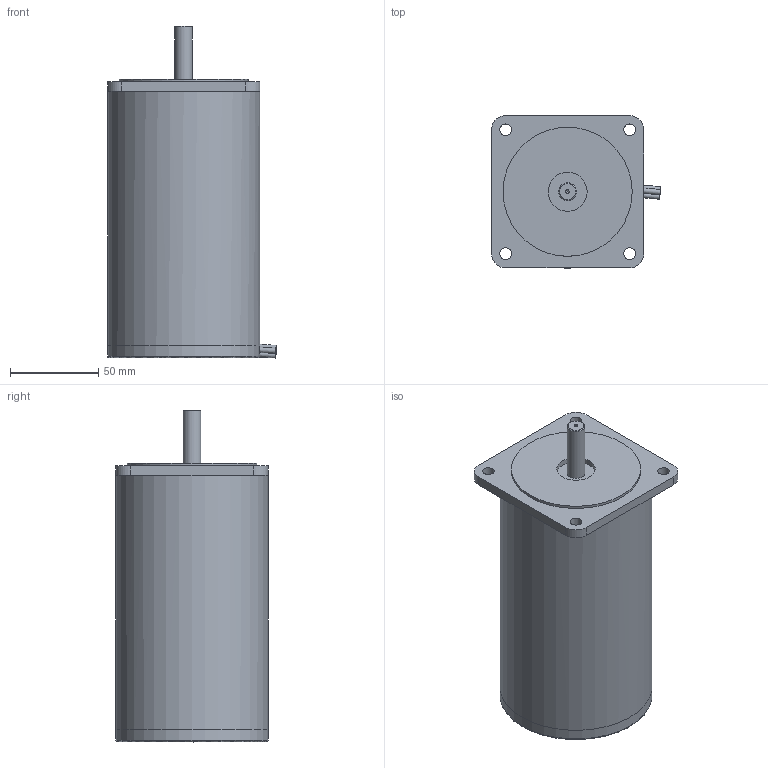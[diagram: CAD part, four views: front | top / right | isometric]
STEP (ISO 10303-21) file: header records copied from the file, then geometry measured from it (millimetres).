
FILE_DESCRIPTION((''),'2;1');
FILE_NAME('C:\Users\Reinhard\Documents\Inventor\Testschrittmotor\SM87\SM87.4L.stp','2012-11-14T20:37:56',('Reinhard'),(''),'Autodesk Inventor 2012','Autodesk Inventor 2012','');
FILE_SCHEMA(('CONFIG_CONTROL_DESIGN'));
Length unit declared in the file: millimetre
Products named in the file (1): SM87
Bounding box: 95.44 x 86 x 187.62 mm (x, y, z)
Volume: 145574.5 mm3; surface area: 107966.4 mm2
Topology: 1 solids, 1 shells, 63 faces, 156 edges, 93 vertices
Faces by surface type: cylinder 32, plane 28, cone 2, torus 1
Full cylindrical faces by diameter (mm): 2 x5, 6.6 x4, 10 x1, 22 x1, 73 x1, 78 x1, 82 x1, 86 x1
Entity records: 1937 total; most frequent: CARTESIAN_POINT 440, DIRECTION 321, ORIENTED_EDGE 270, AXIS2_PLACEMENT_3D 142, EDGE_CURVE 135, EDGE_LOOP 101, VERTEX_POINT 90, CIRCLE 72
